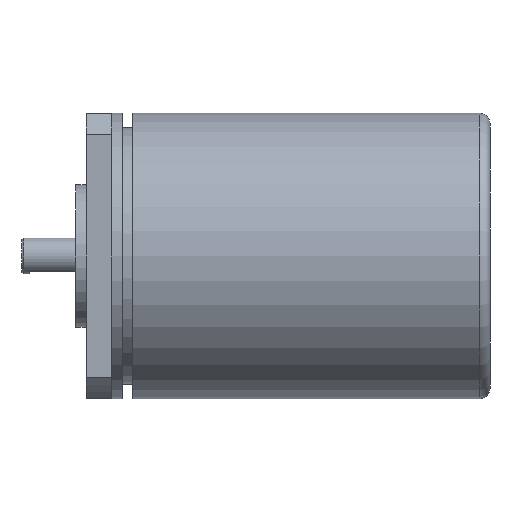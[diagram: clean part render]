
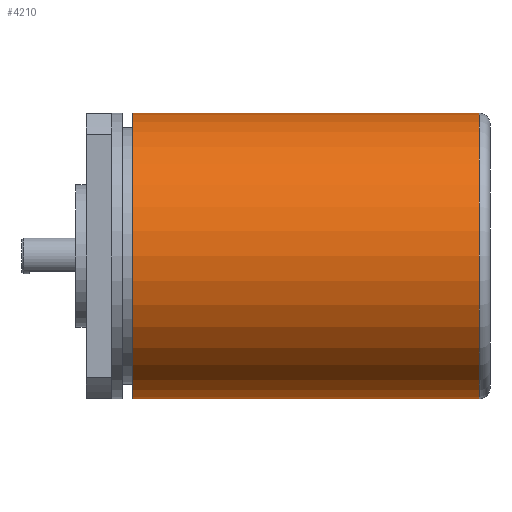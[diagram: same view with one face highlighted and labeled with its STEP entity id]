
A CAD part, front view. The second image highlights one B-rep face of the part: STEP entity #4210.
In plain terms, the highlighted cylindrical face has radius 40 mm (diameter 80 mm), a full revolution.
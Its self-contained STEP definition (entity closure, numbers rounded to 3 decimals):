
#162=LINE('',#6871,#386);
#163=LINE('',#6876,#387);
#386=VECTOR('',#5509,1000.);
#387=VECTOR('',#5512,1000.);
#715=CYLINDRICAL_SURFACE('',#4647,40.);
#1135=ORIENTED_EDGE('',*,*,#2036,.F.);
#1136=ORIENTED_EDGE('',*,*,#2037,.T.);
#1137=ORIENTED_EDGE('',*,*,#2038,.T.);
#1138=ORIENTED_EDGE('',*,*,#2039,.F.);
#1139=ORIENTED_EDGE('',*,*,#2040,.T.);
#1140=ORIENTED_EDGE('',*,*,#2041,.F.);
#2036=EDGE_CURVE('',#2541,#2541,#2895,.T.);
#2037=EDGE_CURVE('',#2542,#2543,#162,.T.);
#2038=EDGE_CURVE('',#2543,#2544,#2896,.T.);
#2039=EDGE_CURVE('',#2545,#2544,#163,.T.);
#2040=EDGE_CURVE('',#2545,#2542,#2897,.T.);
#2041=EDGE_CURVE('',#2546,#2546,#2898,.T.);
#2541=VERTEX_POINT('',#6869);
#2542=VERTEX_POINT('',#6872);
#2543=VERTEX_POINT('',#6873);
#2544=VERTEX_POINT('',#6875);
#2545=VERTEX_POINT('',#6877);
#2546=VERTEX_POINT('',#6880);
#2895=CIRCLE('',#4646,40.);
#2896=CIRCLE('',#4648,40.);
#2897=CIRCLE('',#4649,40.);
#2898=CIRCLE('',#4650,40.);
#3253=EDGE_LOOP('',(#1135));
#3254=EDGE_LOOP('',(#1136,#1137,#1138,#1139));
#3255=EDGE_LOOP('',(#1140));
#3739=FACE_BOUND('',#3253,.T.);
#3740=FACE_BOUND('',#3254,.T.);
#3741=FACE_BOUND('',#3255,.T.);
#4210=ADVANCED_FACE('',(#3739,#3740,#3741),#715,.T.);
#4646=AXIS2_PLACEMENT_3D('',#6868,#5505,#5506);
#4647=AXIS2_PLACEMENT_3D('',#6870,#5507,#5508);
#4648=AXIS2_PLACEMENT_3D('',#6874,#5510,#5511);
#4649=AXIS2_PLACEMENT_3D('',#6878,#5513,#5514);
#4650=AXIS2_PLACEMENT_3D('',#6879,#5515,#5516);
#5505=DIRECTION('',(-1.,0.,0.));
#5506=DIRECTION('',(0.,0.,-1.));
#5507=DIRECTION('',(-1.,0.,0.));
#5508=DIRECTION('',(0.,0.,-1.));
#5509=DIRECTION('',(1.,0.,0.));
#5510=DIRECTION('',(1.,0.,0.));
#5511=DIRECTION('',(0.,-1.,0.));
#5512=DIRECTION('',(1.,0.,0.));
#5513=DIRECTION('',(-1.,0.,0.));
#5514=DIRECTION('',(0.,1.,0.));
#5515=DIRECTION('',(1.,0.,0.));
#5516=DIRECTION('',(0.,0.,1.));
#6868=CARTESIAN_POINT('',(11.,0.,0.));
#6869=CARTESIAN_POINT('',(11.,0.,-40.));
#6870=CARTESIAN_POINT('',(-6.452,0.,0.));
#6871=CARTESIAN_POINT('',(93.,36.,-17.436));
#6872=CARTESIAN_POINT('',(60.,36.,-17.436));
#6873=CARTESIAN_POINT('',(94.,36.,-17.436));
#6874=CARTESIAN_POINT('',(94.,0.,0.));
#6875=CARTESIAN_POINT('',(94.,36.,17.436));
#6876=CARTESIAN_POINT('',(93.,36.,17.436));
#6877=CARTESIAN_POINT('',(60.,36.,17.436));
#6878=CARTESIAN_POINT('',(60.,0.,0.));
#6879=CARTESIAN_POINT('',(108.,0.,0.));
#6880=CARTESIAN_POINT('',(108.,0.,40.));
